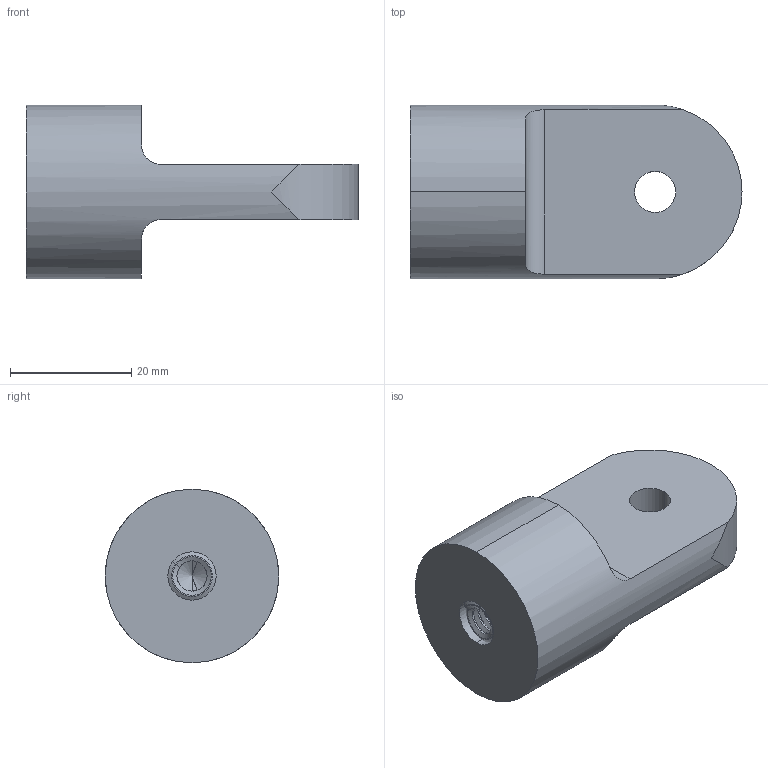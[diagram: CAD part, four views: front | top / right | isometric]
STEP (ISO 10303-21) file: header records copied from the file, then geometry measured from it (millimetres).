
FILE_DESCRIPTION (( 'STEP AP214' ), '1' );
FILE_NAME ('DRP-002-0522-00.STEP', '2013-12-20T16:55:06', ( 'ydmin' ), ( 'Microsoft' ), 'SwSTEP 2.0', 'SolidWorks 2013', '' );
FILE_SCHEMA (( 'AUTOMOTIVE_DESIGN' ));
Length unit declared in the file: inch
Products named in the file (1): DRP-002-0522-00
Bounding box: 54.69 x 28.57 x 28.57 mm (x, y, z)
Volume: 19519.2 mm3; surface area: 6237.9 mm2
Topology: 2 solids, 2 shells, 27 faces, 68 edges, 44 vertices
Faces by surface type: cylinder 10, bspline 8, plane 7, cone 2
Entity records: 2781 total; most frequent: CARTESIAN_POINT 1785, ORIENTED_EDGE 132, DIRECTION 109, EDGE_CURVE 66, VERTEX_POINT 44, AXIS2_PLACEMENT_3D 38, VECTOR 33, LINE 33
